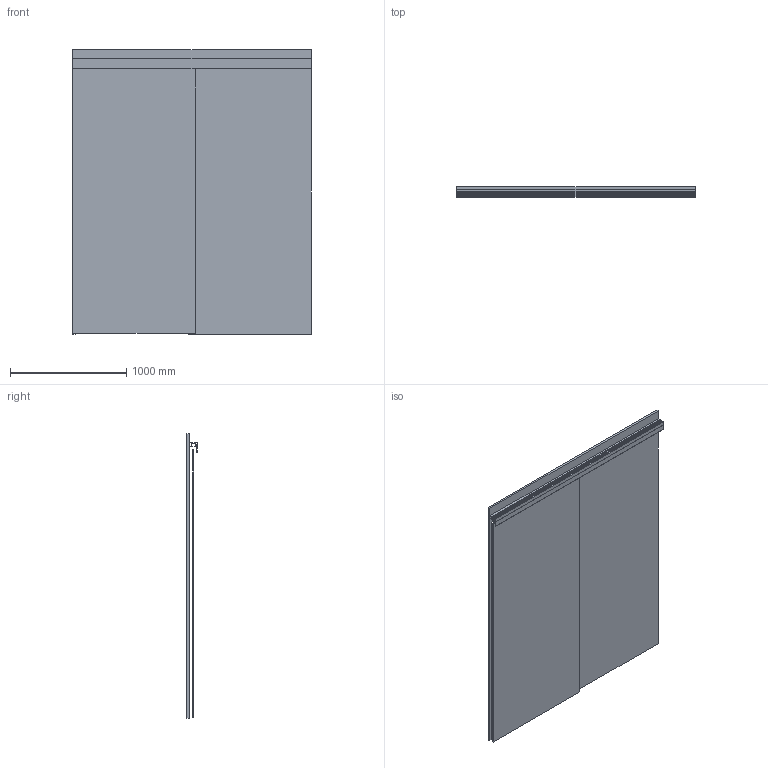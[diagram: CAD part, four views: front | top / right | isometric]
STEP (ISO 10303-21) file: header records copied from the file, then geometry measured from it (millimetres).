
FILE_DESCRIPTION(('STEP AP242'),'1');
FILE_NAME('OPO_56.047.06_volu_schn_3d.stp','2026-01-14T05:22:40',(' '),(' '),'Spatial InterOp 3D',' ',' ');
FILE_SCHEMA(('AP242_MANAGED_MODEL_BASED_3D_ENGINEERING_MIM_LF {1 0 10303 442 1 1 4}'));
Length unit declared in the file: millimetre
Products named in the file (1): 1
Bounding box: 2050 x 86 x 2448 mm (x, y, z)
Volume: 78390824.2 mm3; surface area: 11964062.3 mm2
Topology: 4 solids, 4 shells, 164 faces, 3506 edges, 6348 vertices
Faces by surface type: plane 124, cylinder 40
Entity records: 44004 total; most frequent: DIRECTION 4355, CARTESIAN_POINT 4321, STYLED_ITEM 3230, PRESENTATION_STYLE_ASSIGNMENT 3230, COLOUR_RGB 3230, COMPOSITE_CURVE 3066, CURVE_STYLE 3066, COMPOSITE_CURVE_SEGMENT 3066
